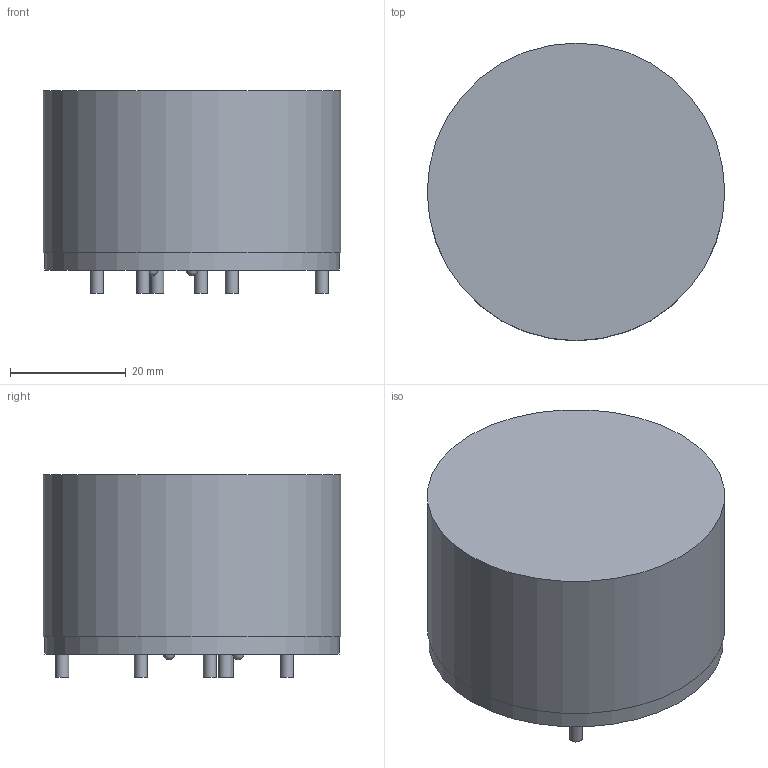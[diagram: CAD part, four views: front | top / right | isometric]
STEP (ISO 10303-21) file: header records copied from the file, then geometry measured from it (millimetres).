
FILE_DESCRIPTION(/* description */ (''),/* implementation_level */ '2;1');
FILE_NAME(/* name */ 'F:\Done\2016\多产品3D模拟\\X2\4FEE653994885F84\X0\\6123-X326\6123-X326 3D Model.stp',/* time_stamp */ '2016-07-08T16:25:40+08:00',/* author */ ('CN000562'),/* organization */ (''),/* preprocessor_version */ 'ST-DEVELOPER v16.5',/* originating_system */ 'Autodesk Inventor 2017',/* authorisation */ '');
FILE_SCHEMA (('AUTOMOTIVE_DESIGN { 1 0 10303 214 3 1 1 }'));
Length unit declared in the file: millimetre
Products named in the file (1): 6123-X316
Bounding box: 51.5 x 51.5 x 35 mm (x, y, z)
Volume: 64548.3 mm3; surface area: 9366.3 mm2
Topology: 1 solids, 1 shells, 23 faces, 43 edges, 29 vertices
Faces by surface type: cylinder 10, plane 10, sphere 3
Full cylindrical faces by diameter (mm): 2.24 x6, 51.5 x1
Entity records: 514 total; most frequent: DIRECTION 98, CARTESIAN_POINT 74, ORIENTED_EDGE 54, AXIS2_PLACEMENT_3D 47, EDGE_LOOP 40, EDGE_CURVE 27, FACE_OUTER_BOUND 23, CIRCLE 23
